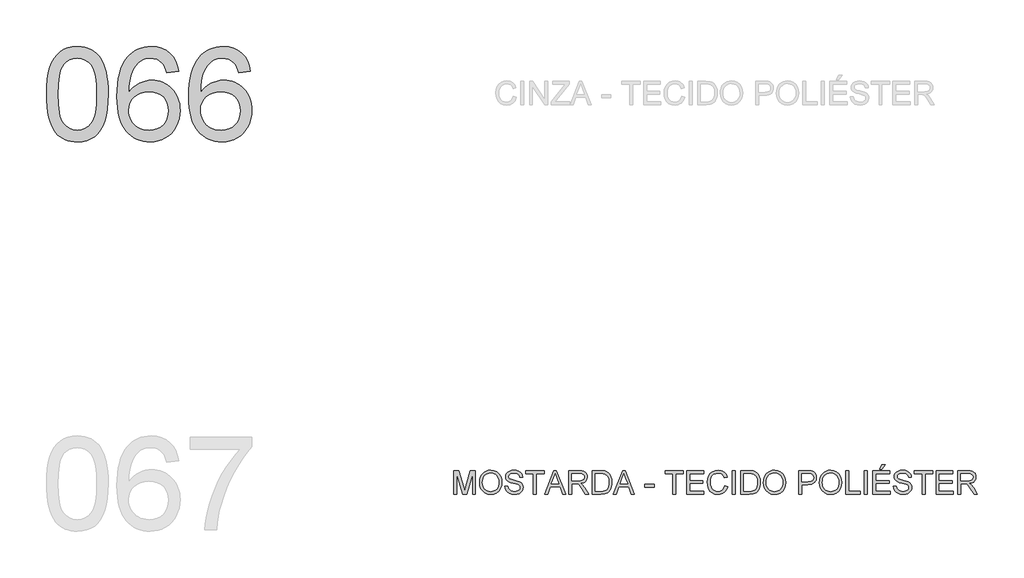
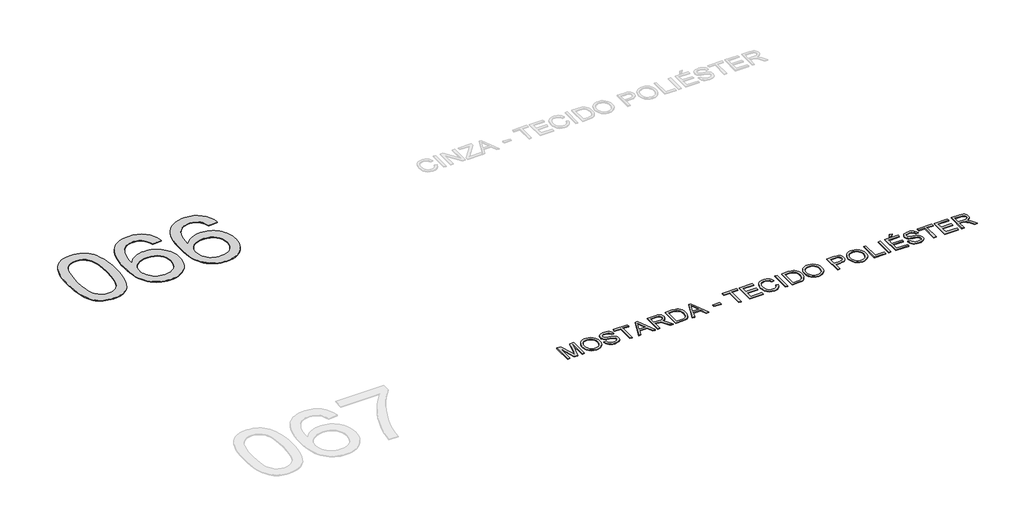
# One storey, part 8 of 67: 2 proxies.
"""IFC4 building model written with IfcOpenShell, lengths in millimetres."""

from ifc_helpers import new_model, si_unit, origin, origin_with_axes, place, context, project, spatial, polyline, outline, extrude, element, save

model = new_model("IFC4")

# Units and contexts
model_context = context("Model", 3, world=origin())
ifc_project = project(units=[si_unit("LENGTHUNIT", "METRE", prefix="MILLI")], contexts=[model_context])

# Site, building, storey
site = spatial("IfcSite", under=ifc_project)
building = spatial("IfcBuilding", under=site)
storey = spatial("IfcBuildingStorey", under=building, Name="Marelli - Linha COLAB - Planta Baixa", Elevation=0.0)

# Proxies
placement = place(None, origin())
element("IfcBuildingElementProxy", 1, Name="1200mm Arial", ObjectType="1200mm Arial", at=placement, inside=storey, context=model_context, shape_type="SweptSolid", body=[
    extrude(outline(polyline([(-25181.1313792, -84895.792664), (-25178.3630672, -84794.4319773), (-25170.0581311, -84702.8385576), (-25156.2165711, -84621.0124048), (-25136.838387, -84548.953519), (-25112.0063523, -84486.073289), (-25081.8032405, -84431.7831035), (-25046.2290516, -84386.0829627), (-25005.2837855, -84348.9728664), (-24958.8294866, -84320.2596767), (-24906.728199, -84299.7502555), (-24848.9799228, -84287.4446027), (-24785.584658, -84283.3427185), (-24737.9439396, -84285.7707396), (-24692.7312424, -84293.0548031), (-24649.9465664, -84305.194909), (-24609.5899115, -84322.1910572), (-24572.6361651, -84343.7581391), (-24540.0602144, -84369.6110463), (-24511.8620595, -84399.7497788), (-24488.0417003, -84434.1743365), (-24467.4035204, -84472.7467637), (-24448.7519032, -84515.3291046), (-24417.4083572, -84612.5235278), (-24405.4337983, -84669.6831928), (-24396.8805419, -84735.9479371), (-24391.7485881, -84811.3177609), (-24390.0379368, -84895.792664), (-24392.7786576, -84996.5095573), (-24401.0008202, -85087.6431245), (-24414.7044246, -85169.1933658), (-24433.8894706, -85241.1602811), (-24458.5283672, -85304.0681023), (-24488.5935233, -85358.4410612), (-24524.0849388, -85404.2791578), (-24565.0026137, -85441.5823921), (-24611.5120949, -85470.4887199), (-24663.7789294, -85491.1360968), (-24721.8031171, -85503.524523), (-24785.584658, -85507.6539984), (-24828.2589694, -85505.8605737), (-24868.5788361, -85500.4802995), (-24906.544258, -85491.5131759), (-24942.1552351, -85478.9592028), (-24975.4117675, -85462.8183803), (-25006.3138551, -85443.0907083), (-25034.8614979, -85419.7761868), (-25061.054696, -85392.8748159), (-25089.1976686, -85350.2786794), (-25113.5882449, -85302.0999336), (-25134.2264248, -85248.3385785), (-25151.1122084, -85188.9946142), (-25164.2455956, -85124.0680406), (-25173.6265865, -85053.5588577), (-25179.255181, -84977.4670655), (-25181.1313792, -84895.792664)]), holes=[polyline([(-25030.446914, -84895.4983584), (-25026.03233, -85026.4919399), (-25012.7885782, -85132.5247279), (-25002.8557643, -85176.1808245), (-24990.7156585, -85213.5967226), (-24976.3682607, -85244.7724225), (-24959.8135709, -85269.7079239), (-24922.4367602, -85307.884878), (-24880.9396711, -85335.1541309), (-24835.3223037, -85351.5156826), (-24785.584658, -85356.9695332), (-24735.8470122, -85351.4972885), (-24690.2296448, -85335.0805545), (-24648.7325558, -85307.7193311), (-24611.3557451, -85269.4136183), (-24594.8010553, -85244.418336), (-24580.4536575, -85213.2104465), (-24568.3135516, -85175.7899498), (-24558.3807378, -85132.1568459), (-24545.1369859, -85026.2528166), (-24540.722402, -84895.4983584), (-24544.9898331, -84767.9720648), (-24557.7921266, -84663.8062779), (-24567.3938467, -84620.4835744), (-24579.1292823, -84583.0009976), (-24592.9984335, -84551.3585475), (-24609.0013003, -84525.5562241), (-24645.7527116, -84485.5122689), (-24687.7280473, -84456.9094438), (-24734.9273073, -84439.7477487), (-24787.3504916, -84434.0271837), (-24836.8306199, -84439.067167), (-24881.6754351, -84454.187117), (-24921.8849372, -84479.3870337), (-24957.4591261, -84514.666917), (-24974.5656389, -84543.2145599), (-24989.3912833, -84577.2068562), (-25001.9360594, -84616.6438061), (-25012.199967, -84661.5254095), (-25025.8851772, -84767.6225769), (-25030.446914, -84895.4983584)])]), origin_with_axes(), (0.0, 0.0, 1.0), 10.0),
    extrude(outline(polyline([(-23485.9311454, -84603.5472071), (-23636.6156107, -84622.3827652), (-23647.6888587, -84582.0812927), (-23660.8958223, -84547.7027202), (-23676.2365015, -84519.2470479), (-23693.7108963, -84496.7142757), (-23726.102906, -84469.2886729), (-23762.063371, -84449.6989567), (-23801.5922914, -84437.9451269), (-23844.6896671, -84434.0271837), (-23880.2270679, -84436.3080521), (-23914.734399, -84443.1506572), (-23948.2116606, -84454.554999), (-23980.6588525, -84470.5210776), (-24010.2641561, -84496.6315022), (-24037.2758916, -84528.1681863), (-24061.694059, -84565.1311297), (-24083.5186584, -84607.5203326), (-24101.5908614, -84658.1316981), (-24114.7518398, -84719.7611293), (-24123.0015935, -84792.4086263), (-24126.3401226, -84876.0741891), (-24097.6177359, -84838.2099347), (-24065.8971108, -84805.5512106), (-24031.1782475, -84778.0980167), (-23993.461146, -84755.8503531), (-23953.7574816, -84738.6610669), (-23913.07893, -84726.3830053), (-23871.4254911, -84719.0161683), (-23828.7971649, -84716.560556), (-23791.8986008, -84718.2390176), (-23756.3979883, -84723.2744024), (-23722.2953273, -84731.6667104), (-23689.590618, -84743.4159416), (-23658.2838602, -84758.5220961), (-23628.375054, -84776.9851737), (-23599.8641993, -84798.8051745), (-23572.7512963, -84823.9820986), (-23547.9882395, -84851.81697), (-23526.5269236, -84881.6108131), (-23508.3673486, -84913.3636278), (-23493.5095145, -84947.0754142), (-23481.9534214, -84982.7461721), (-23473.6990691, -85020.3759017), (-23468.7464577, -85059.9646029), (-23467.0955873, -85101.5122757), (-23470.2041901, -85156.4462547), (-23479.5299987, -85209.4120649), (-23495.073013, -85260.4097065), (-23516.833233, -85309.4391794), (-23544.0381066, -85354.6702707), (-23575.9150814, -85394.2727675), (-23612.4641577, -85428.2466698), (-23653.6853352, -85456.5919775), (-23698.6956973, -85478.9316116), (-23746.6123272, -85494.8884932), (-23797.4352248, -85504.4626221), (-23851.1643902, -85507.6539984), (-23897.1657345, -85505.5386769), (-23940.9919764, -85499.1927125), (-23982.6431161, -85488.6161052), (-24022.1191534, -85473.8088549), (-24059.4200884, -85454.7709616), (-24094.5459212, -85431.5024254), (-24127.4966517, -85404.0032463), (-24158.2722798, -85372.2734242), (-24186.104852, -85335.6875598), (-24210.2264146, -85293.6202536), (-24230.6369675, -85246.0715057), (-24247.3365108, -85193.0413161), (-24260.3250445, -85134.5296848), (-24269.6025686, -85070.5366117), (-24275.169083, -85001.062097), (-24277.0245879, -84926.1061404), (-24274.9644487, -84842.1784618), (-24268.7840312, -84764.1828803), (-24258.4833353, -84692.1193959), (-24244.0623611, -84625.9880088), (-24225.5211085, -84565.7887188), (-24202.8595776, -84511.521526), (-24176.0777684, -84463.1864303), (-24145.1756808, -84420.7834319), (-24115.1611085, -84388.5707647), (-24082.6541357, -84360.6531198), (-24047.6547624, -84337.0304971), (-24010.1629886, -84317.7028968), (-23970.1788142, -84302.6703188), (-23927.7022393, -84291.9327631), (-23882.733264, -84285.4902296), (-23835.271888, -84283.3427185), (-23765.8709497, -84288.6586133), (-23703.055099, -84304.6062978), (-23646.824336, -84331.1857719), (-23597.1786608, -84368.3970358), (-23555.4608425, -84414.9892904), (-23523.0136505, -84469.7117372), (-23499.8370848, -84532.5643761), (-23485.9311454, -84603.5472071)]), holes=[polyline([(-24126.3401226, -85099.157831), (-24124.1604218, -85132.9202011), (-24117.6213193, -85165.9284131), (-24106.7228152, -85198.182467), (-24091.4649095, -85229.6823629), (-24072.5925631, -85258.9473756), (-24050.8507372, -85284.4967801), (-24026.2394317, -85306.3305766), (-23998.7586467, -85324.4487648), (-23968.5831261, -85338.676601), (-23935.8876137, -85348.8393411), (-23900.6721097, -85354.9369852), (-23862.9366141, -85356.9695332), (-23810.559415, -85352.7572843), (-23763.4981108, -85340.1205378), (-23721.7527014, -85319.0592936), (-23685.3231868, -85289.5735517), (-23655.7730656, -85252.8589286), (-23634.6658361, -85210.1110407), (-23622.0014984, -85161.3298882), (-23617.7800525, -85106.5154709), (-23621.9463161, -85053.8439662), (-23634.4451069, -85007.0769676), (-23655.2764249, -84966.214475), (-23684.44027, -84931.2564884), (-23720.9801492, -84903.2514715), (-23763.9395692, -84883.247888), (-23813.31853, -84871.2457379), (-23869.1170316, -84867.2450212), (-23920.7952549, -84871.2457379), (-23968.4083821, -84883.247888), (-24011.9564133, -84903.2514715), (-24051.4393484, -84931.2564884), (-24084.2084371, -84965.7546225), (-24107.6149291, -85005.2375576), (-24121.6588242, -85049.7052938), (-24126.3401226, -85099.157831)])]), origin_with_axes(), (0.0, 0.0, 1.0), 10.0),
    extrude(outline(polyline([(-22562.9887959, -84603.5472071), (-22713.6732612, -84622.3827652), (-22724.7465092, -84582.0812927), (-22737.9534728, -84547.7027202), (-22753.294152, -84519.2470479), (-22770.7685468, -84496.7142757), (-22803.1605565, -84469.2886729), (-22839.1210215, -84449.6989567), (-22878.6499419, -84437.9451269), (-22921.7473176, -84434.0271837), (-22957.2847184, -84436.3080521), (-22991.7920495, -84443.1506572), (-23025.2693111, -84454.554999), (-23057.716503, -84470.5210776), (-23087.3218066, -84496.6315022), (-23114.3335421, -84528.1681863), (-23138.7517095, -84565.1311297), (-23160.5763089, -84607.5203326), (-23178.6485119, -84658.1316981), (-23191.8094903, -84719.7611293), (-23200.059244, -84792.4086263), (-23203.3977731, -84876.0741891), (-23174.6753864, -84838.2099347), (-23142.9547613, -84805.5512106), (-23108.235898, -84778.0980167), (-23070.5187965, -84755.8503531), (-23030.8151321, -84738.6610669), (-22990.1365805, -84726.3830053), (-22948.4831416, -84719.0161683), (-22905.8548154, -84716.560556), (-22868.9562513, -84718.2390176), (-22833.4556388, -84723.2744024), (-22799.3529778, -84731.6667104), (-22766.6482685, -84743.4159416), (-22735.3415107, -84758.5220961), (-22705.4327045, -84776.9851737), (-22676.9218498, -84798.8051745), (-22649.8089468, -84823.9820986), (-22625.04589, -84851.81697), (-22603.5845741, -84881.6108131), (-22585.4249991, -84913.3636278), (-22570.567165, -84947.0754142), (-22559.0110719, -84982.7461721), (-22550.7567196, -85020.3759017), (-22545.8041082, -85059.9646029), (-22544.1532378, -85101.5122757), (-22547.2618406, -85156.4462547), (-22556.5876492, -85209.4120649), (-22572.1306635, -85260.4097065), (-22593.8908835, -85309.4391794), (-22621.0957571, -85354.6702707), (-22652.9727319, -85394.2727675), (-22689.5218082, -85428.2466698), (-22730.7429857, -85456.5919775), (-22775.7533478, -85478.9316116), (-22823.6699777, -85494.8884932), (-22874.4928753, -85504.4626221), (-22928.2220407, -85507.6539984), (-22974.223385, -85505.5386769), (-23018.0496269, -85499.1927125), (-23059.7007666, -85488.6161052), (-23099.1768039, -85473.8088549), (-23136.4777389, -85454.7709616), (-23171.6035717, -85431.5024254), (-23204.5543022, -85404.0032463), (-23235.3299303, -85372.2734242), (-23263.1625025, -85335.6875598), (-23287.2840651, -85293.6202536), (-23307.694618, -85246.0715057), (-23324.3941613, -85193.0413161), (-23337.382695, -85134.5296848), (-23346.6602191, -85070.5366117), (-23352.2267335, -85001.062097), (-23354.0822384, -84926.1061404), (-23352.0220992, -84842.1784618), (-23345.8416817, -84764.1828803), (-23335.5409858, -84692.1193959), (-23321.1200116, -84625.9880088), (-23302.578759, -84565.7887188), (-23279.9172281, -84511.521526), (-23253.1354189, -84463.1864303), (-23222.2333313, -84420.7834319), (-23192.218759, -84388.5707647), (-23159.7117862, -84360.6531198), (-23124.7124129, -84337.0304971), (-23087.2206391, -84317.7028968), (-23047.2364647, -84302.6703188), (-23004.7598898, -84291.9327631), (-22959.7909145, -84285.4902296), (-22912.3295385, -84283.3427185), (-22842.9286002, -84288.6586133), (-22780.1127495, -84304.6062978), (-22723.8819865, -84331.1857719), (-22674.2363113, -84368.3970358), (-22632.518493, -84414.9892904), (-22600.071301, -84469.7117372), (-22576.8947353, -84532.5643761), (-22562.9887959, -84603.5472071)]), holes=[polyline([(-23203.3977731, -85099.157831), (-23201.2180723, -85132.9202011), (-23194.6789698, -85165.9284131), (-23183.7804657, -85198.182467), (-23168.52256, -85229.6823629), (-23149.6502136, -85258.9473756), (-23127.9083877, -85284.4967801), (-23103.2970822, -85306.3305766), (-23075.8162972, -85324.4487648), (-23045.6407766, -85338.676601), (-23012.9452642, -85348.8393411), (-22977.7297602, -85354.9369852), (-22939.9942646, -85356.9695332), (-22887.6170655, -85352.7572843), (-22840.5557613, -85340.1205378), (-22798.8103519, -85319.0592936), (-22762.3808373, -85289.5735517), (-22732.8307161, -85252.8589286), (-22711.7234866, -85210.1110407), (-22699.0591489, -85161.3298882), (-22694.837703, -85106.5154709), (-22699.0039666, -85053.8439662), (-22711.5027574, -85007.0769676), (-22732.3340754, -84966.214475), (-22761.4979205, -84931.2564884), (-22798.0377997, -84903.2514715), (-22840.9972197, -84883.247888), (-22890.3761805, -84871.2457379), (-22946.1746821, -84867.2450212), (-22997.8529054, -84871.2457379), (-23045.4660326, -84883.247888), (-23089.0140638, -84903.2514715), (-23128.4969989, -84931.2564884), (-23161.2660876, -84965.7546225), (-23184.6725796, -85005.2375576), (-23198.7164747, -85049.7052938), (-23203.3977731, -85099.157831)])]), origin_with_axes(), (0.0, 0.0, 1.0), 10.0),
])
element("IfcBuildingElementProxy", 2, Name="300mm Arial", ObjectType="300mm Arial", at=placement, inside=storey, context=model_context, shape_type="SweptSolid", body=[
    extrude(outline(polyline([(-19950.8161366, -90030.5663201), (-19950.8161366, -89729.1973896), (-19885.9953291, -89729.1973896), (-19824.3383067, -89941.6124536), (-19811.9038953, -89985.9790223), (-19798.4394142, -89937.9336337), (-19737.8124614, -89729.1973896), (-19672.9916539, -89729.1973896), (-19672.9916539, -90030.5663201), (-19710.6627702, -90030.5663201), (-19710.6627702, -89766.8685059), (-19786.3728848, -90030.5663201), (-19837.4349057, -90030.5663201), (-19913.1450203, -89766.8685059), (-19913.1450203, -90030.5663201), (-19950.8161366, -90030.5663201)])), origin_with_axes(), (0.0, 0.0, 1.0), 10.0),
    extrude(outline(polyline([(-19621.193869, -89883.8549804), (-19618.6830744, -89848.5061192), (-19611.1506905, -89817.213157), (-19598.5967174, -89789.9760937), (-19581.0211551, -89766.7949295), (-19559.4770658, -89748.2858666), (-19535.0175116, -89735.0651074), (-19507.6424926, -89727.1326519), (-19477.3520089, -89724.4885001), (-19437.8230885, -89729.454907), (-19402.3776582, -89744.3541278), (-19372.9470986, -89768.1376988), (-19351.4627901, -89799.7571563), (-19338.3294029, -89837.68579), (-19333.9516071, -89880.3968896), (-19338.5593291, -89923.6782064), (-19352.3824951, -89962.140269), (-19374.6577499, -89993.8149087), (-19404.6217384, -90016.733957), (-19439.763666, -90030.6398965), (-19477.5727381, -90035.2752096), (-19517.7086637, -90030.1524528), (-19553.3564291, -90014.7841825), (-19582.7134123, -89990.5591531), (-19603.9769916, -89958.8661192), (-19616.8896496, -89922.3998164), (-19621.193869, -89883.8549804)]), holes=[polyline([(-19583.5227527, -89884.2228624), (-19581.6396567, -89909.1974513), (-19575.9903688, -89931.3669401), (-19566.574889, -89950.7313286), (-19553.3932173, -89967.2906169), (-19537.3696571, -89980.5527628), (-19519.4285121, -89990.0257242), (-19499.5697821, -89995.709501), (-19477.7934672, -89997.6040933), (-19455.6446719, -89995.6911069), (-19435.5514172, -89989.9521478), (-19417.5137031, -89980.3872159), (-19401.5315296, -89966.9963113), (-19388.4464269, -89950.0875351), (-19379.099925, -89929.9689885), (-19373.4920238, -89906.6406715), (-19371.6227234, -89880.102584), (-19374.8232968, -89846.7540812), (-19384.4250169, -89817.9305269), (-19400.1795633, -89794.358488), (-19421.8386158, -89776.7645316), (-19447.9674345, -89765.8108452), (-19477.1312797, -89762.1596164), (-19498.1511372, -89763.9185522), (-19517.6534814, -89769.1953595), (-19535.6383125, -89777.9900385), (-19552.1056303, -89790.302589), (-19565.8506213, -89806.7262208), (-19575.6684721, -89827.8541437), (-19581.5591825, -89853.6863575), (-19583.5227527, -89884.2228624)])]), origin_with_axes(), (0.0, 0.0, 1.0), 10.0),
    extrude(outline(polyline([(-19296.2804908, -89926.9707502), (-19258.6093745, -89926.9707502), (-19254.2867611, -89947.8756446), (-19246.4692687, -89964.6786547), (-19234.2739805, -89978.0143771), (-19216.8179799, -89988.517408), (-19195.4808241, -89995.332422), (-19171.6420709, -89997.6040933), (-19150.654403, -89995.884245), (-19132.2786974, -89990.7247), (-19117.3886736, -89982.5577197), (-19106.8580515, -89971.8155654), (-19100.5948605, -89959.4823216), (-19098.5071302, -89946.5420724), (-19100.0706287, -89933.932917), (-19104.7611241, -89923.0344129), (-19114.2892678, -89913.7361954), (-19130.365711, -89905.9279001), (-19185.2169165, -89891.5437141), (-19221.2233668, -89882.0247675), (-19244.2619767, -89872.9656733), (-19263.0147614, -89860.2921386), (-19276.3044985, -89844.9330653), (-19284.2231584, -89827.2195472), (-19286.8627118, -89807.4826782), (-19283.597759, -89785.4189555), (-19273.8029009, -89764.845155), (-19257.7356548, -89747.4075484), (-19235.653538, -89734.7524077), (-19209.1476403, -89727.054477), (-19179.8090512, -89724.4885001), (-19148.0240468, -89727.1740386), (-19120.2121679, -89735.2306543), (-19097.366696, -89748.4928003), (-19080.4809125, -89766.7949295), (-19069.7939405, -89788.9966079), (-19065.5449035, -89813.9574013), (-19103.2160198, -89813.9574013), (-19110.1322013, -89791.4798114), (-19124.5531755, -89775.2562154), (-19147.0859477, -89765.4337661), (-19178.3375232, -89762.1596164), (-19210.3248627, -89765.3969779), (-19232.2690237, -89775.1090626), (-19244.9609525, -89789.4012781), (-19249.1915954, -89806.3790322), (-19246.1933572, -89820.8551887), (-19237.1986424, -89832.4986539), (-19215.9350631, -89842.9097143), (-19175.6887728, -89853.541504), (-19134.1548956, -89863.6398648), (-19109.0285553, -89872.4506385), (-19087.5534438, -89886.1174547), (-19072.5714496, -89902.9848441), (-19063.7698728, -89922.868866), (-19060.8360139, -89945.5855792), (-19064.2113312, -89968.8081301), (-19074.3372831, -89990.6511236), (-19090.8000024, -90009.4498935), (-19113.1856218, -90023.539774), (-19140.1053868, -90032.3413507), (-19170.1705429, -90035.2752096), (-19207.078304, -90032.1114244), (-19237.4561598, -90022.620069), (-19261.653598, -90006.764355), (-19280.0201066, -89984.5074943), (-19291.8107246, -89957.3945912), (-19296.2804908, -89926.9707502)])), origin_with_axes(), (0.0, 0.0, 1.0), 10.0),
    extrude(outline(polyline([(-18928.9871068, -90030.5663201), (-18928.9871068, -89766.8685059), (-19027.8737871, -89766.8685059), (-19027.8737871, -89729.1973896), (-18792.4293102, -89729.1973896), (-18792.4293102, -89766.8685059), (-18891.3159905, -89766.8685059), (-18891.3159905, -90030.5663201), (-18928.9871068, -90030.5663201)])), origin_with_axes(), (0.0, 0.0, 1.0), 10.0),
    extrude(outline(polyline([(-18785.1452467, -90030.5663201), (-18664.8478343, -89729.1973896), (-18632.7685243, -89729.1973896), (-18512.4711119, -90030.5663201), (-18552.2759438, -90030.5663201), (-18586.7832749, -89936.3885293), (-18710.9066601, -89936.3885293), (-18745.3404149, -90030.5663201), (-18785.1452467, -90030.5663201)]), holes=[polyline([(-18697.0742971, -89898.717413), (-18600.5420615, -89898.717413), (-18627.6917528, -89824.6259792), (-18648.8081793, -89766.8685059), (-18667.5701611, -89818.1512561), (-18697.0742971, -89898.717413)])]), origin_with_axes(), (0.0, 0.0, 1.0), 10.0),
    extrude(outline(polyline([(-18472.2248216, -90030.5663201), (-18472.2248216, -89729.1973896), (-18342.3624773, -89729.1973896), (-18307.459673, -89731.2299376), (-18282.0666183, -89737.3275817), (-18263.5069717, -89748.5847708), (-18249.1043916, -89766.0959537), (-18239.8613564, -89787.8101885), (-18236.7803447, -89811.6765329), (-18241.8847074, -89841.3646099), (-18257.1977955, -89865.9759154), (-18268.7975746, -89876.0052983), (-18283.1794614, -89884.0205273), (-18320.2895576, -89894.0085235), (-18298.8788255, -89910.1217548), (-18268.3446199, -89948.8965171), (-18218.0919394, -90030.5663201), (-18261.8698968, -90030.5663201), (-18301.0861175, -89968.0999573), (-18329.4130311, -89926.750021), (-18349.315447, -89907.2154871), (-18367.2313002, -89900.0417882), (-18389.0834907, -89898.717413), (-18434.5537053, -89898.717413), (-18434.5537053, -90030.5663201), (-18472.2248216, -90030.5663201)]), holes=[polyline([(-18434.5537053, -89861.0462967), (-18350.235152, -89861.0462967), (-18326.0193197, -89859.7127245), (-18307.2297468, -89855.7120078), (-18293.0846841, -89848.7774322), (-18282.8023823, -89838.6422832), (-18276.5391913, -89826.3826157), (-18274.451461, -89813.0744845), (-18278.4337836, -89794.6987789), (-18290.3807514, -89779.8915286), (-18310.9361579, -89770.1242616), (-18340.7437966, -89766.8685059), (-18434.5537053, -89766.8685059), (-18434.5537053, -89861.0462967)])]), origin_with_axes(), (0.0, 0.0, 1.0), 10.0),
    extrude(outline(polyline([(-18170.8558912, -90030.5663201), (-18170.8558912, -89729.1973896), (-18066.8924393, -89729.1973896), (-18013.1080917, -89733.5383972), (-17989.0853974, -89741.9077126), (-17968.8150994, -89755.0962821), (-17947.9745844, -89778.0521186), (-17933.1305459, -89806.5997614), (-17924.2461957, -89840.1873876), (-17921.2847457, -89878.2631741), (-17923.2897025, -89910.6091985), (-17929.3045732, -89939.0740679), (-17938.4648348, -89963.3082943), (-17949.9059649, -89982.9623899), (-17963.0761403, -89998.477813), (-17977.4235381, -90010.2960221), (-17993.8954545, -90019.0608107), (-18013.4391854, -90025.4159721), (-18061.8892442, -90030.5663201), (-18170.8558912, -90030.5663201)]), holes=[polyline([(-18133.1847749, -89992.8952038), (-18066.5245574, -89992.8952038), (-18038.9518018, -89991.5340404), (-18018.0377104, -89987.4505502), (-18002.2555728, -89980.8838566), (-17990.0786788, -89972.0730828), (-17976.9912768, -89955.7667134), (-17967.1596305, -89934.6594839), (-17961.0068041, -89908.6594239), (-17958.955862, -89877.6745629), (-17962.9749728, -89836.6189322), (-17975.0323052, -89806.3054558), (-17992.8469908, -89785.4833349), (-18014.1381612, -89772.9017706), (-18035.8064108, -89768.3768221), (-18067.5546269, -89766.8685059), (-18133.1847749, -89766.8685059), (-18133.1847749, -89992.8952038)])]), origin_with_axes(), (0.0, 0.0, 1.0), 10.0),
    extrude(outline(polyline([(-17904.5829031, -90030.5663201), (-17784.2854907, -89729.1973896), (-17752.2061807, -89729.1973896), (-17631.9087682, -90030.5663201), (-17671.7136001, -90030.5663201), (-17706.2209313, -89936.3885293), (-17830.3443164, -89936.3885293), (-17864.7780712, -90030.5663201), (-17904.5829031, -90030.5663201)]), holes=[polyline([(-17816.5119534, -89898.717413), (-17719.9797179, -89898.717413), (-17747.1294091, -89824.6259792), (-17768.2458357, -89766.8685059), (-17787.0078174, -89818.1512561), (-17816.5119534, -89898.717413)])]), origin_with_axes(), (0.0, 0.0, 1.0), 10.0),
    extrude(outline(polyline([(-17497.4846872, -89941.0974188), (-17497.4846872, -89903.4263025), (-17379.7624488, -89903.4263025), (-17379.7624488, -89941.0974188), (-17497.4846872, -89941.0974188)])), origin_with_axes(), (0.0, 0.0, 1.0), 10.0),
    extrude(outline(polyline([(-17139.6090823, -90030.5663201), (-17139.6090823, -89766.8685059), (-17238.4957626, -89766.8685059), (-17238.4957626, -89729.1973896), (-17003.0512857, -89729.1973896), (-17003.0512857, -89766.8685059), (-17101.937966, -89766.8685059), (-17101.937966, -90030.5663201), (-17139.6090823, -90030.5663201)])), origin_with_axes(), (0.0, 0.0, 1.0), 10.0),
    extrude(outline(polyline([(-16960.6712798, -90030.5663201), (-16960.6712798, -89729.1973896), (-16744.0623611, -89729.1973896), (-16744.0623611, -89766.8685059), (-16923.0001635, -89766.8685059), (-16923.0001635, -89856.3374072), (-16753.4801402, -89856.3374072), (-16753.4801402, -89894.0085235), (-16923.0001635, -89894.0085235), (-16923.0001635, -89992.8952038), (-16739.3534716, -89992.8952038), (-16739.3534716, -90030.5663201), (-16960.6712798, -90030.5663201)])), origin_with_axes(), (0.0, 0.0, 1.0), 10.0),
    extrude(outline(polyline([(-16470.9467679, -89923.4390831), (-16433.2756516, -89933.1511677), (-16440.7298605, -89956.5783531), (-16450.6580758, -89977.0486868), (-16463.0602976, -89994.5621691), (-16477.9365258, -90009.1187997), (-16494.9510681, -90020.5622291), (-16513.7682321, -90028.7361071), (-16534.3880179, -90033.640434), (-16556.8104255, -90035.2752096), (-16600.5056095, -90030.3271968), (-16635.2060787, -90015.4831583), (-16661.803947, -89991.2581289), (-16681.1913281, -89958.1671434), (-16693.0279313, -89919.2636224), (-16696.9734657, -89877.6009865), (-16692.5128965, -89833.6574821), (-16679.1311889, -89795.7104543), (-16657.5273188, -89764.9647166), (-16628.4002618, -89742.6250824), (-16593.8561425, -89729.0226457), (-16556.0010852, -89724.4885001), (-16514.6971341, -89730.3562179), (-16496.7283979, -89737.6908652), (-16480.5484879, -89747.9593714), (-16466.4241186, -89760.8904235), (-16454.6220043, -89776.2127086), (-16437.9845411, -89814.0309777), (-16475.6556574, -89823.0072984), (-16488.7154682, -89795.5357104), (-16506.557745, -89776.6909552), (-16529.4032169, -89765.7924511), (-16557.4726131, -89762.1596164), (-16589.8278346, -89766.1879242), (-16616.4073088, -89778.2728478), (-16636.5764391, -89797.1451941), (-16649.7006293, -89821.5357704), (-16656.9019194, -89849.1085259), (-16659.3023494, -89877.5274101), (-16656.460461, -89912.3290468), (-16647.9347957, -89942.421794), (-16633.4034569, -89966.6560205), (-16612.5445478, -89983.8820949), (-16587.5377692, -89994.1735937), (-16560.5628219, -89997.6040933), (-16529.1181084, -89992.931992), (-16502.9157133, -89978.9156879), (-16483.132859, -89955.702334), (-16470.9467679, -89923.4390831)])), origin_with_axes(), (0.0, 0.0, 1.0), 10.0),
    extrude(outline(polyline([(-16376.7689771, -90030.5663201), (-16376.7689771, -89729.1973896), (-16339.0978608, -89729.1973896), (-16339.0978608, -90030.5663201), (-16376.7689771, -90030.5663201)])), origin_with_axes(), (0.0, 0.0, 1.0), 10.0),
    extrude(outline(polyline([(-16263.7556282, -90030.5663201), (-16263.7556282, -89729.1973896), (-16159.7921763, -89729.1973896), (-16106.0078287, -89733.5383972), (-16081.9851344, -89741.9077126), (-16061.7148364, -89755.0962821), (-16040.8743214, -89778.0521186), (-16026.0302829, -89806.5997614), (-16017.1459327, -89840.1873876), (-16014.1844827, -89878.2631741), (-16016.1894395, -89910.6091985), (-16022.2043102, -89939.0740679), (-16031.3645718, -89963.3082943), (-16042.8057019, -89982.9623899), (-16055.9758773, -89998.477813), (-16070.3232751, -90010.2960221), (-16086.7951915, -90019.0608107), (-16106.3389225, -90025.4159721), (-16154.7889812, -90030.5663201), (-16263.7556282, -90030.5663201)]), holes=[polyline([(-16226.0845119, -89992.8952038), (-16159.4242944, -89992.8952038), (-16131.8515388, -89991.5340404), (-16110.9374474, -89987.4505502), (-16095.1553098, -89980.8838566), (-16082.9784158, -89972.0730828), (-16069.8910138, -89955.7667134), (-16060.0593675, -89934.6594839), (-16053.9065411, -89908.6594239), (-16051.855599, -89877.6745629), (-16055.8747098, -89836.6189322), (-16067.9320422, -89806.3054558), (-16085.7467278, -89785.4833349), (-16107.0378982, -89772.9017706), (-16128.7061478, -89768.3768221), (-16160.4543639, -89766.8685059), (-16226.0845119, -89766.8685059), (-16226.0845119, -89992.8952038)])]), origin_with_axes(), (0.0, 0.0, 1.0), 10.0),
    extrude(outline(polyline([(-15976.5133664, -89883.8549804), (-15974.0025717, -89848.5061192), (-15966.4701879, -89817.213157), (-15953.9162148, -89789.9760937), (-15936.3406525, -89766.7949295), (-15914.7965631, -89748.2858666), (-15890.337009, -89735.0651074), (-15862.96199, -89727.1326519), (-15832.6715062, -89724.4885001), (-15793.1425859, -89729.454907), (-15757.6971556, -89744.3541278), (-15728.266596, -89768.1376988), (-15706.7822875, -89799.7571563), (-15693.6489003, -89837.68579), (-15689.2711045, -89880.3968896), (-15693.8788265, -89923.6782064), (-15707.7019925, -89962.140269), (-15729.9772473, -89993.8149087), (-15759.9412358, -90016.733957), (-15795.0831634, -90030.6398965), (-15832.8922354, -90035.2752096), (-15873.0281611, -90030.1524528), (-15908.6759264, -90014.7841825), (-15938.0329097, -89990.5591531), (-15959.296489, -89958.8661192), (-15972.209147, -89922.3998164), (-15976.5133664, -89883.8549804)]), holes=[polyline([(-15938.84225, -89884.2228624), (-15936.9591541, -89909.1974513), (-15931.3098662, -89931.3669401), (-15921.8943864, -89950.7313286), (-15908.7127146, -89967.2906169), (-15892.6891545, -89980.5527628), (-15874.7480094, -89990.0257242), (-15854.8892795, -89995.709501), (-15833.1129646, -89997.6040933), (-15810.9641693, -89995.6911069), (-15790.8709145, -89989.9521478), (-15772.8332005, -89980.3872159), (-15756.851027, -89966.9963113), (-15743.7659243, -89950.0875351), (-15734.4194224, -89929.9689885), (-15728.8115212, -89906.6406715), (-15726.9422208, -89880.102584), (-15730.1427942, -89846.7540812), (-15739.7445143, -89817.9305269), (-15755.4990607, -89794.358488), (-15777.1581132, -89776.7645316), (-15803.2869319, -89765.8108452), (-15832.450777, -89762.1596164), (-15853.4706345, -89763.9185522), (-15872.9729788, -89769.1953595), (-15890.9578098, -89777.9900385), (-15907.4251277, -89790.302589), (-15921.1701187, -89806.7262208), (-15930.9879694, -89827.8541437), (-15936.8786799, -89853.6863575), (-15938.84225, -89884.2228624)])]), origin_with_axes(), (0.0, 0.0, 1.0), 10.0),
    extrude(outline(polyline([(-15519.7510811, -90030.5663201), (-15519.7510811, -89729.1973896), (-15408.0621074, -89729.1973896), (-15363.0333512, -89732.0668692), (-15342.9561913, -89737.4287493), (-15326.4290927, -89746.1567496), (-15313.1209615, -89758.6463433), (-15302.700704, -89775.2930036), (-15295.9684635, -89794.9287051), (-15293.7243833, -89816.3854225), (-15295.2395973, -89834.8852883), (-15299.7852392, -89851.9044291), (-15307.361309, -89867.4428449), (-15317.9678068, -89881.5005356), (-15332.529036, -89893.1531978), (-15351.9693002, -89901.476528), (-15376.2885993, -89906.470526), (-15405.4869334, -89908.1351921), (-15482.0799648, -89908.1351921), (-15482.0799648, -90030.5663201), (-15519.7510811, -90030.5663201)]), holes=[polyline([(-15482.0799648, -89870.4640758), (-15403.2796415, -89870.4640758), (-15369.8759563, -89867.005985), (-15347.8030366, -89856.6317127), (-15335.4973839, -89839.9850525), (-15331.3954996, -89817.7097977), (-15333.8143237, -89800.7872259), (-15341.0707961, -89786.5134045), (-15352.2636058, -89775.7712502), (-15366.491442, -89769.4436799), (-15404.1625583, -89766.8685059), (-15482.0799648, -89766.8685059), (-15482.0799648, -89870.4640758)])]), origin_with_axes(), (0.0, 0.0, 1.0), 10.0),
    extrude(outline(polyline([(-15256.053267, -89883.8549804), (-15253.5424724, -89848.5061192), (-15246.0100885, -89817.213157), (-15233.4561154, -89789.9760937), (-15215.8805531, -89766.7949295), (-15194.3364638, -89748.2858666), (-15169.8769096, -89735.0651074), (-15142.5018907, -89727.1326519), (-15112.2114069, -89724.4885001), (-15072.6824865, -89729.454907), (-15037.2370563, -89744.3541278), (-15007.8064967, -89768.1376988), (-14986.3221881, -89799.7571563), (-14973.1888009, -89837.68579), (-14968.8110052, -89880.3968896), (-14973.4187272, -89923.6782064), (-14987.2418931, -89962.140269), (-15009.5171479, -89993.8149087), (-15039.4811364, -90016.733957), (-15074.623064, -90030.6398965), (-15112.4321361, -90035.2752096), (-15152.5680618, -90030.1524528), (-15188.2158271, -90014.7841825), (-15217.5728103, -89990.5591531), (-15238.8363896, -89958.8661192), (-15251.7490477, -89922.3998164), (-15256.053267, -89883.8549804)]), holes=[polyline([(-15218.3821507, -89884.2228624), (-15216.4990547, -89909.1974513), (-15210.8497668, -89931.3669401), (-15201.434287, -89950.7313286), (-15188.2526153, -89967.2906169), (-15172.2290551, -89980.5527628), (-15154.2879101, -89990.0257242), (-15134.4291801, -89995.709501), (-15112.6528653, -89997.6040933), (-15090.5040699, -89995.6911069), (-15070.4108152, -89989.9521478), (-15052.3731011, -89980.3872159), (-15036.3909277, -89966.9963113), (-15023.305825, -89950.0875351), (-15013.959323, -89929.9689885), (-15008.3514219, -89906.6406715), (-15006.4821215, -89880.102584), (-15009.6826948, -89846.7540812), (-15019.2844149, -89817.9305269), (-15035.0389613, -89794.358488), (-15056.6980138, -89776.7645316), (-15082.8268325, -89765.8108452), (-15111.9906777, -89762.1596164), (-15133.0105352, -89763.9185522), (-15152.5128795, -89769.1953595), (-15170.4977105, -89777.9900385), (-15186.9650283, -89790.302589), (-15200.7100193, -89806.7262208), (-15210.5278701, -89827.8541437), (-15216.4185805, -89853.6863575), (-15218.3821507, -89884.2228624)])]), origin_with_axes(), (0.0, 0.0, 1.0), 10.0),
    extrude(outline(polyline([(-14917.0132202, -90030.5663201), (-14917.0132202, -89729.1973896), (-14879.3421039, -89729.1973896), (-14879.3421039, -89992.8952038), (-14728.6576387, -89992.8952038), (-14728.6576387, -90030.5663201), (-14917.0132202, -90030.5663201)])), origin_with_axes(), (0.0, 0.0, 1.0), 10.0),
    extrude(outline(polyline([(-14681.5687433, -90030.5663201), (-14681.5687433, -89729.1973896), (-14643.897627, -89729.1973896), (-14643.897627, -90030.5663201), (-14681.5687433, -90030.5663201)])), origin_with_axes(), (0.0, 0.0, 1.0), 10.0),
    extrude(outline(polyline([(-14568.5553944, -90030.5663201), (-14568.5553944, -89729.1973896), (-14351.9464757, -89729.1973896), (-14351.9464757, -89766.8685059), (-14530.8842781, -89766.8685059), (-14530.8842781, -89856.3374072), (-14361.3642547, -89856.3374072), (-14361.3642547, -89894.0085235), (-14530.8842781, -89894.0085235), (-14530.8842781, -89992.8952038), (-14347.2375861, -89992.8952038), (-14347.2375861, -90030.5663201), (-14568.5553944, -90030.5663201)])), origin_with_axes(), (0.0, 0.0, 1.0), 10.0),
    extrude(outline(polyline([(-14483.7953827, -89710.3618315), (-14455.5420455, -89653.855157), (-14408.4531501, -89653.855157), (-14455.5420455, -89710.3618315), (-14483.7953827, -89710.3618315)])), origin_with_axes(), (0.0, 0.0, 1.0), 10.0),
    extrude(outline(polyline([(-14304.8575803, -89926.9707502), (-14267.186464, -89926.9707502), (-14262.8638505, -89947.8756446), (-14255.0463581, -89964.6786547), (-14242.85107, -89978.0143771), (-14225.3950693, -89988.517408), (-14204.0579136, -89995.332422), (-14180.2191603, -89997.6040933), (-14159.2314925, -89995.884245), (-14140.8557868, -89990.7247), (-14125.9657631, -89982.5577197), (-14115.435141, -89971.8155654), (-14109.17195, -89959.4823216), (-14107.0842197, -89946.5420724), (-14108.6477181, -89933.932917), (-14113.3382136, -89923.0344129), (-14122.8663573, -89913.7361954), (-14138.9428004, -89905.9279001), (-14193.7940059, -89891.5437141), (-14229.8004562, -89882.0247675), (-14252.8390662, -89872.9656733), (-14271.5918509, -89860.2921386), (-14284.8815879, -89844.9330653), (-14292.8002479, -89827.2195472), (-14295.4398012, -89807.4826782), (-14292.1748485, -89785.4189555), (-14282.3799904, -89764.845155), (-14266.3127442, -89747.4075484), (-14244.2306275, -89734.7524077), (-14217.7247297, -89727.054477), (-14188.3861406, -89724.4885001), (-14156.6011362, -89727.1740386), (-14128.7892574, -89735.2306543), (-14105.9437855, -89748.4928003), (-14089.0580019, -89766.7949295), (-14078.3710299, -89788.9966079), (-14074.1219929, -89813.9574013), (-14111.7931092, -89813.9574013), (-14118.7092907, -89791.4798114), (-14133.1302649, -89775.2562154), (-14155.6630371, -89765.4337661), (-14186.9146126, -89762.1596164), (-14218.9019521, -89765.3969779), (-14240.8461131, -89775.1090626), (-14253.5380419, -89789.4012781), (-14257.7686849, -89806.3790322), (-14254.7704466, -89820.8551887), (-14245.7757318, -89832.4986539), (-14224.5121525, -89842.9097143), (-14184.2658623, -89853.541504), (-14142.731985, -89863.6398648), (-14117.6056447, -89872.4506385), (-14096.1305333, -89886.1174547), (-14081.148539, -89902.9848441), (-14072.3469623, -89922.868866), (-14069.4131034, -89945.5855792), (-14072.7884207, -89968.8081301), (-14082.9143726, -89990.6511236), (-14099.3770919, -90009.4498935), (-14121.7627113, -90023.539774), (-14148.6824763, -90032.3413507), (-14178.7476323, -90035.2752096), (-14215.6553935, -90032.1114244), (-14246.0332492, -90022.620069), (-14270.2306875, -90006.764355), (-14288.5971961, -89984.5074943), (-14300.387814, -89957.3945912), (-14304.8575803, -89926.9707502)])), origin_with_axes(), (0.0, 0.0, 1.0), 10.0),
    extrude(outline(polyline([(-13937.5641963, -90030.5663201), (-13937.5641963, -89766.8685059), (-14036.4508766, -89766.8685059), (-14036.4508766, -89729.1973896), (-13801.0063997, -89729.1973896), (-13801.0063997, -89766.8685059), (-13899.89308, -89766.8685059), (-13899.89308, -90030.5663201), (-13937.5641963, -90030.5663201)])), origin_with_axes(), (0.0, 0.0, 1.0), 10.0),
    extrude(outline(polyline([(-13758.6263938, -90030.5663201), (-13758.6263938, -89729.1973896), (-13542.0174751, -89729.1973896), (-13542.0174751, -89766.8685059), (-13720.9552775, -89766.8685059), (-13720.9552775, -89856.3374072), (-13551.4352541, -89856.3374072), (-13551.4352541, -89894.0085235), (-13720.9552775, -89894.0085235), (-13720.9552775, -89992.8952038), (-13537.3085855, -89992.8952038), (-13537.3085855, -90030.5663201), (-13758.6263938, -90030.5663201)])), origin_with_axes(), (0.0, 0.0, 1.0), 10.0),
    extrude(outline(polyline([(-13480.8019111, -90030.5663201), (-13480.8019111, -89729.1973896), (-13350.9395668, -89729.1973896), (-13316.0367625, -89731.2299376), (-13290.6437078, -89737.3275817), (-13272.0840611, -89748.5847708), (-13257.681481, -89766.0959537), (-13248.4384459, -89787.8101885), (-13245.3574342, -89811.6765329), (-13250.4617968, -89841.3646099), (-13265.7748849, -89865.9759154), (-13277.3746641, -89876.0052983), (-13291.7565508, -89884.0205273), (-13328.8666471, -89894.0085235), (-13307.4559149, -89910.1217548), (-13276.9217093, -89948.8965171), (-13226.6690288, -90030.5663201), (-13270.4469862, -90030.5663201), (-13309.6632069, -89968.0999573), (-13337.9901205, -89926.750021), (-13357.8925365, -89907.2154871), (-13375.8083896, -89900.0417882), (-13397.6605802, -89898.717413), (-13443.1307948, -89898.717413), (-13443.1307948, -90030.5663201), (-13480.8019111, -90030.5663201)]), holes=[polyline([(-13443.1307948, -89861.0462967), (-13358.8122415, -89861.0462967), (-13334.5964091, -89859.7127245), (-13315.8068362, -89855.7120078), (-13301.6617735, -89848.7774322), (-13291.3794718, -89838.6422832), (-13285.1162808, -89826.3826157), (-13283.0285505, -89813.0744845), (-13287.0108731, -89794.6987789), (-13298.9578409, -89779.8915286), (-13319.5132473, -89770.1242616), (-13349.320886, -89766.8685059), (-13443.1307948, -89766.8685059), (-13443.1307948, -89861.0462967)])]), origin_with_axes(), (0.0, 0.0, 1.0), 10.0),
])

save(model, "model.ifc")
